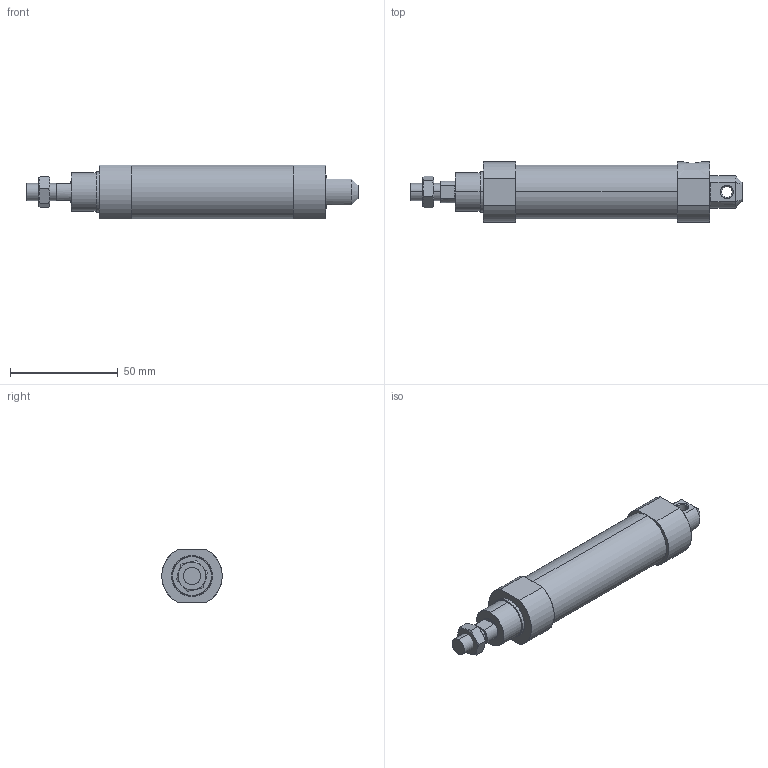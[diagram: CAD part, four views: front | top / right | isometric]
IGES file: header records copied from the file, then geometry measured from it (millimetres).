
Start section: SolidWorks IGES file using analytic representation for surfaces
Global section: file name: C:\Users\Toshiba\Desktop\J#1-20-15(25)-C.IGS; native system: SolidWorks 2014; preprocessor: SolidWorks 2014; author: Toshiba; date: 160308.143910; units: millimetre
Bounding box: 154 x 28 x 25 mm (x, y, z)
Surface area: 12822.4 mm2 (no closed solid volume)
Topology: 0 solids, 0 shells, 75 faces, 1178 edges, 1178 vertices
Faces by surface type: bspline 47, revolution 28
